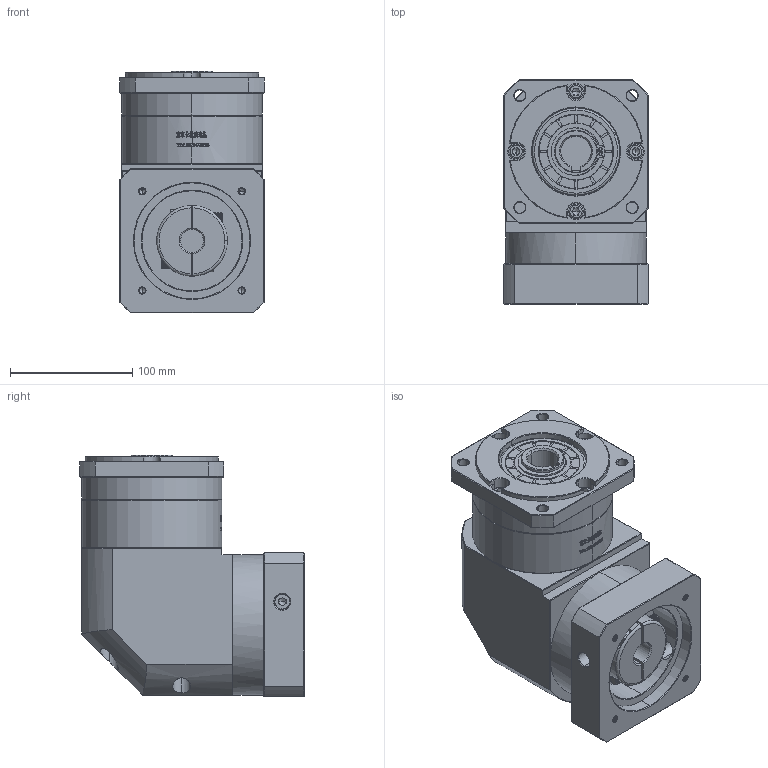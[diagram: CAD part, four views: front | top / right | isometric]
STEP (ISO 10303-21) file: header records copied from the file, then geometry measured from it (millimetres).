
FILE_DESCRIPTION (( 'STEP AP214' ), '1' );
FILE_NAME ('ZFR120A-K25-L1-19-95-115-M6.step', '2023-03-08T08:29:12', ( '' ), ( '' ), 'SwSTEP 2.0', 'SolidWorks 2016', '' );
FILE_SCHEMA (( 'AUTOMOTIVE_DESIGN' ));
Length unit declared in the file: millimetre
Products named in the file (1): ZFR120A-K25-L1-19-95-115-M6
Bounding box: 118 x 183.9 x 198 mm (x, y, z)
Volume: 2755389.9 mm3; surface area: 233683.6 mm2
Topology: 6 solids, 6 shells, 2802 faces, 7492 edges, 4834 vertices
Faces by surface type: plane 1476, bspline 601, cylinder 386, cone 331, torus 8
Entity records: 152796 total; most frequent: CARTESIAN_POINT 57599, ORIENTED_EDGE 14928, DIRECTION 10885, EDGE_CURVE 7464, VERTEX_POINT 4834, VECTOR 4677, LINE 4677, AXIS2_PLACEMENT_3D 3104
